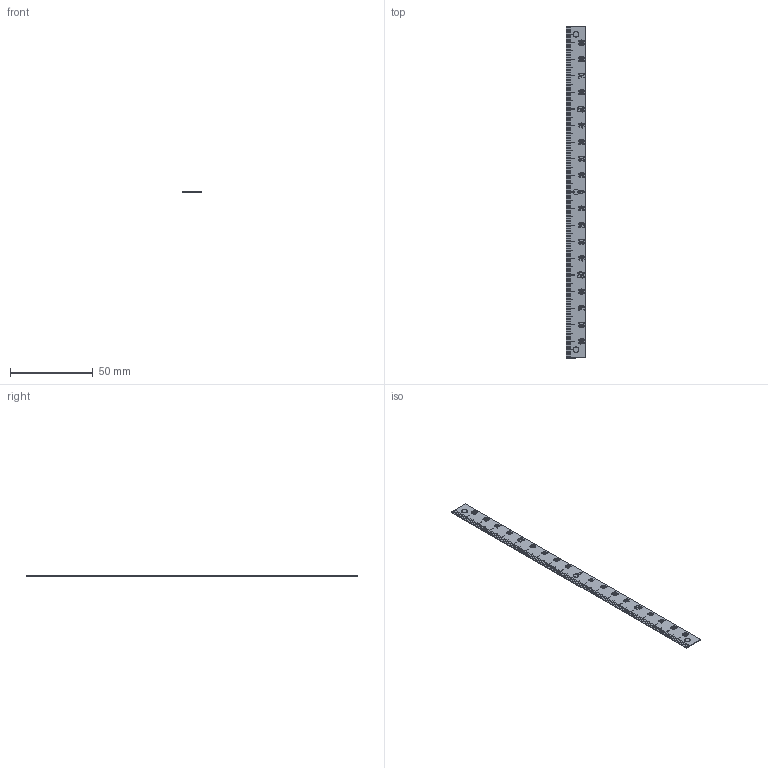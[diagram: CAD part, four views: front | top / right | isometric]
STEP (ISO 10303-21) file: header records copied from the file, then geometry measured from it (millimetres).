
FILE_DESCRIPTION (( 'STEP AP203' ), '1' );
FILE_NAME ('es1n-u100100.STEP', '2023-06-15T07:04:51', ( '' ), ( '' ), 'SwSTEP 2.0', 'SolidWorks 2021', '' );
FILE_SCHEMA (( 'CONFIG_CONTROL_DESIGN' ));
Length unit declared in the file: millimetre
Products named in the file (1): es1n-u100100
Bounding box: 12 x 200 x 0.5 mm (x, y, z)
Volume: 1198.6 mm3; surface area: 5029.9 mm2
Topology: 1 solids, 1 shells, 1553 faces, 4440 edges, 2960 vertices
Faces by surface type: plane 971, bspline 566, cylinder 16
Entity records: 71575 total; most frequent: CARTESIAN_POINT 34808, ORIENTED_EDGE 8880, DIRECTION 5316, EDGE_CURVE 4440, LINE 3276, VECTOR 3276, VERTEX_POINT 2960, EDGE_LOOP 1624
